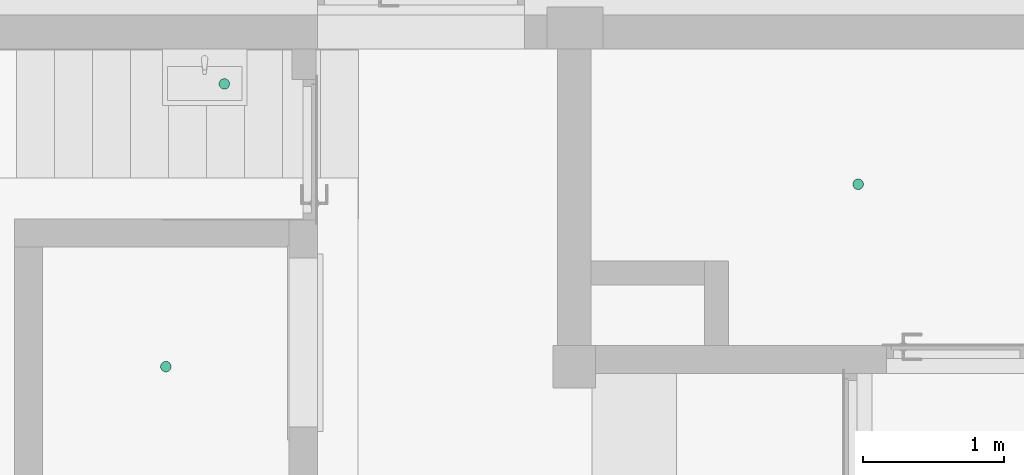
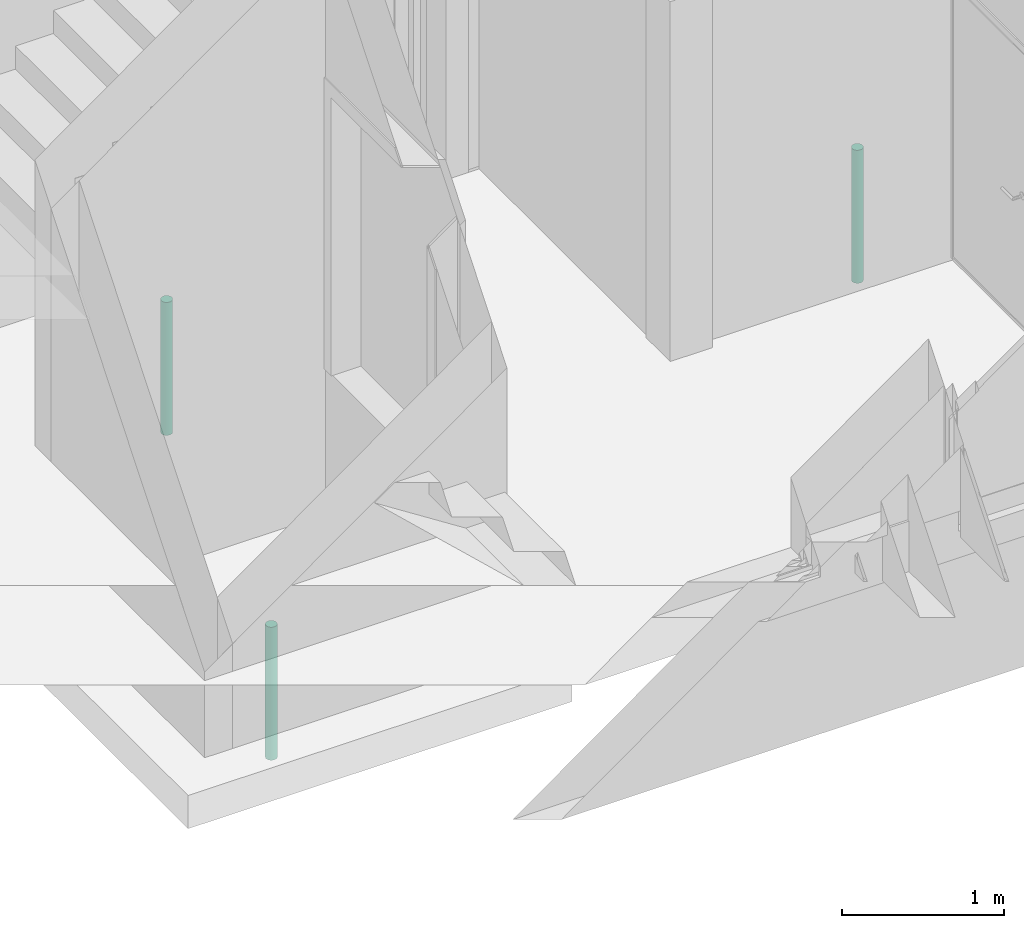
# One storey, part 10 of 55: 3 flow terminals.
"""IFC2X3 building model written with IfcOpenShell, lengths in millimetres."""

from ifc_helpers import new_model, entity, si_unit, converted_unit, direction, frame, frame_2d, origin, place, context, subcontext, project, spatial, circle, extrude, source, transform, mapped, material, type_object, type_shapes, element, save


model = new_model("IFC2X3")

# Units and contexts
model_context = context("Model", 3, precision=0.01, world=origin(), true_north=direction((6.123233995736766e-17, 1.0)))
plan_context = context("Plan", 3, precision=0.01, world=origin(), true_north=direction((6.123233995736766e-17, 1.0)))
body_context = subcontext(model_context, "Body", "Model", "MODEL_VIEW")
ifc_project = project(units=[si_unit("LENGTHUNIT", "METRE", prefix="MILLI"), converted_unit("PLANEANGLEUNIT", "DEGREE", entity("IfcPlaneAngleMeasure", 0.017453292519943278), si_unit("PLANEANGLEUNIT", "RADIAN"), dimensions=[0, 0, 0, 0, 0, 0, 0]), si_unit("AREAUNIT", "SQUARE_METRE")], contexts=[model_context, plan_context])

# Site, building, storey, space
site_placement = place(None, origin())
site = spatial("IfcSite", under=ifc_project, at=site_placement, Name="Default", CompositionType="ELEMENT")
building_placement = place(site_placement, origin())
building = spatial("IfcBuilding", under=site, at=building_placement, CompositionType="ELEMENT")
storey_placement = place(building_placement, origin())
storey = spatial("IfcBuildingStorey", under=building, at=storey_placement, Name="1K", CompositionType="ELEMENT", Elevation=0.0)
space_1_placement = place(storey_placement, origin())
space_1 = spatial("IfcSpace", under=storey, at=space_1_placement, Name="1-0.3", CompositionType="ELEMENT", InteriorOrExteriorSpace="INTERNAL")

# Flow terminal
ifc_material = material(Name="<Unnamed>")
distribution_element_type = type_object("IfcDistributionElementType", Name="HR_Plumbing-fixtures_Drain_Generic_v2:150x150", material=ifc_material)
shared_shape = source(origin(), body_context, "Body", "SweptSolid", [
    extrude(circle(Radius=37.5, at=frame_2d((0.0, -6.058292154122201e-14), x_axis=(1.0, 0.0))), frame((0.0, 0.0, -1000.0)), (0.0, 0.0, 1.0), 1000.0000000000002),
])
type_shapes(distribution_element_type, [shared_shape])
flow_terminal_1_placement = place(space_1_placement, frame((2689.993534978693, 6157.4969072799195, -20.0)))
element("IfcFlowTerminal", 1, at=flow_terminal_1_placement, inside=space_1, type_object=distribution_element_type, material=ifc_material, Name="HR_Plumbing-fixtures_Drain_Generic_v2:150x150", ObjectType="HR_Plumbing-fixtures_Drain_Generic_v2:150x150", context=body_context, shape_type="MappedRepresentation", body=[
    mapped(shared_shape, transform((0.0, 0.0, 0.0), scale=1.0)),
])

# Space
space_2_placement = place(storey_placement, origin())
space_2 = spatial("IfcSpace", under=storey, at=space_2_placement, Name="1-0.4", CompositionType="ELEMENT", InteriorOrExteriorSpace="INTERNAL")

# Flow terminals
flow_terminal_2_placement = place(space_2_placement, frame((7190.0, 5444.765901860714, -20.0)))
element("IfcFlowTerminal", 2, at=flow_terminal_2_placement, inside=space_2, type_object=distribution_element_type, material=ifc_material, Name="HR_Plumbing-fixtures_Drain_Generic_v2:150x150", ObjectType="HR_Plumbing-fixtures_Drain_Generic_v2:150x150", context=body_context, shape_type="MappedRepresentation", body=[
    mapped(shared_shape, transform((0.0, 0.0, 0.0), scale=1.0)),
])
flow_terminal_3_placement = place(storey_placement, frame((2274.9935349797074, 4149.996144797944, -1100.0)))
element("IfcFlowTerminal", 3, at=flow_terminal_3_placement, inside=storey, type_object=distribution_element_type, material=ifc_material, Name="HR_Plumbing-fixtures_Drain_Generic_v2:150x150", ObjectType="HR_Plumbing-fixtures_Drain_Generic_v2:150x150", context=body_context, shape_type="MappedRepresentation", body=[
    mapped(shared_shape, transform((0.0, 0.0, 0.0), scale=1.0)),
])

save(model, "model.ifc")
